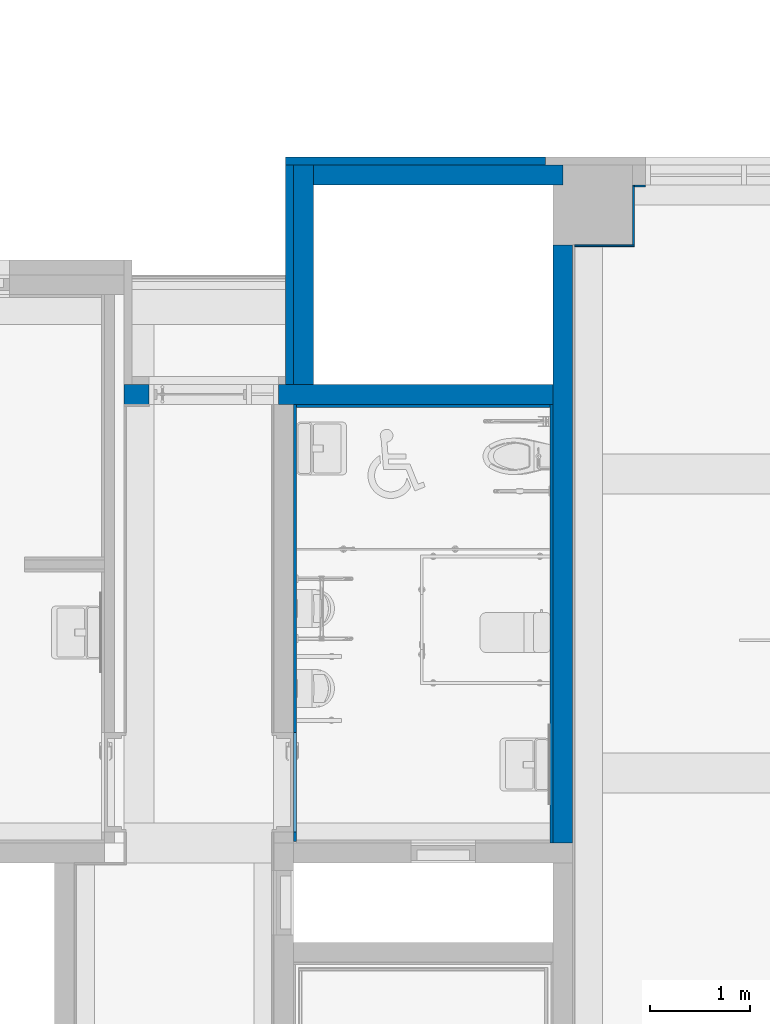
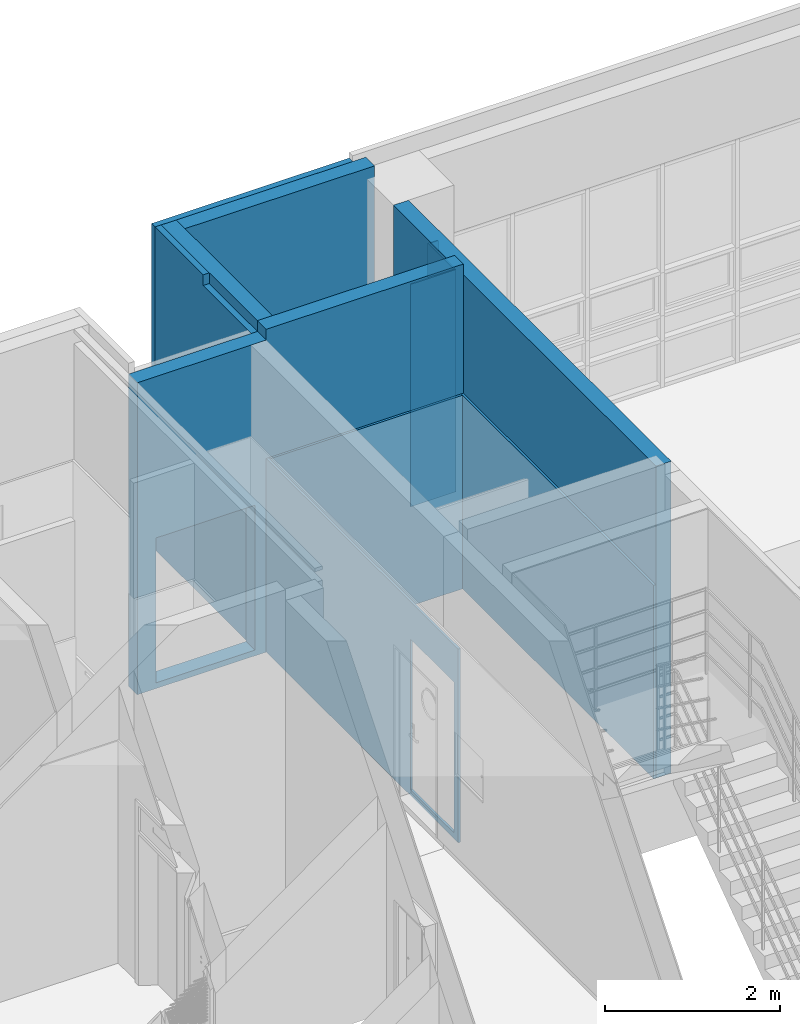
# One storey, part 61 of 74: 12 walls, 2 openings.
"""IFC2X3 building model written with IfcOpenShell, lengths in millimetres."""

from ifc_helpers import new_model, entity, si_unit, converted_unit, derived_unit, direction, frame, frame_2d, origin, place, context, subcontext, project, spatial, polyline, rectangle, extrude, clip, bounded_halfspace, material, layer, layer_set, layer_usage, type_object, element, save


model = new_model("IFC2X3")

# Units and contexts
model_context = context("Model", 3, precision=0.01, world=origin(), true_north=direction((6.123031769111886e-17, 1.0)))
body_context = subcontext(model_context, "Body", "Model", "MODEL_VIEW")
ifc_project = project(units=[si_unit("LENGTHUNIT", "METRE", prefix="MILLI"), si_unit("AREAUNIT", "SQUARE_METRE"), si_unit("VOLUMEUNIT", "CUBIC_METRE"), converted_unit("PLANEANGLEUNIT", "DEGREE", entity("IfcRatioMeasure", 0.017453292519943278), si_unit("PLANEANGLEUNIT", "RADIAN"), dimensions=[0, 0, 0, 0, 0, 0, 0]), si_unit("MASSUNIT", "GRAM", prefix="KILO"), derived_unit("MASSDENSITYUNIT", [(si_unit("MASSUNIT", "GRAM", prefix="KILO"), 1), (si_unit("LENGTHUNIT", "METRE"), -3)]), derived_unit("MOMENTOFINERTIAUNIT", [(si_unit("LENGTHUNIT", "METRE"), 4)]), si_unit("TIMEUNIT", "SECOND"), si_unit("FREQUENCYUNIT", "HERTZ"), si_unit("THERMODYNAMICTEMPERATUREUNIT", "DEGREE_CELSIUS"), derived_unit("THERMALTRANSMITTANCEUNIT", [(si_unit("MASSUNIT", "GRAM", prefix="KILO"), 1), (si_unit("THERMODYNAMICTEMPERATUREUNIT", "KELVIN"), -1), (si_unit("TIMEUNIT", "SECOND"), -3)]), derived_unit("VOLUMETRICFLOWRATEUNIT", [(si_unit("LENGTHUNIT", "METRE"), 3), (si_unit("TIMEUNIT", "SECOND"), -1)]), derived_unit("MASSFLOWRATEUNIT", [(si_unit("MASSUNIT", "GRAM", prefix="KILO"), 1), (si_unit("TIMEUNIT", "SECOND"), -1)]), derived_unit("ROTATIONALFREQUENCYUNIT", [(si_unit("TIMEUNIT", "SECOND"), -1)]), si_unit("ELECTRICCURRENTUNIT", "AMPERE"), si_unit("ELECTRICVOLTAGEUNIT", "VOLT"), si_unit("POWERUNIT", "WATT"), si_unit("FORCEUNIT", "NEWTON", prefix="KILO"), si_unit("ILLUMINANCEUNIT", "LUX"), si_unit("LUMINOUSFLUXUNIT", "LUMEN"), si_unit("LUMINOUSINTENSITYUNIT", "CANDELA"), derived_unit("USERDEFINED", [(si_unit("MASSUNIT", "GRAM", prefix="KILO"), -1), (si_unit("LENGTHUNIT", "METRE"), -2), (si_unit("TIMEUNIT", "SECOND"), 3), (si_unit("LUMINOUSFLUXUNIT", "LUMEN"), 1)]), derived_unit("SOUNDPOWERUNIT", [(si_unit("MASSUNIT", "GRAM", prefix="KILO"), 1), (si_unit("LENGTHUNIT", "METRE"), 2), (si_unit("TIMEUNIT", "SECOND"), -3)]), derived_unit("SOUNDPRESSUREUNIT", [(si_unit("MASSUNIT", "GRAM", prefix="KILO"), 1), (si_unit("LENGTHUNIT", "METRE"), -1), (si_unit("TIMEUNIT", "SECOND"), -2)]), derived_unit("LINEARVELOCITYUNIT", [(si_unit("LENGTHUNIT", "METRE"), 1), (si_unit("TIMEUNIT", "SECOND"), -1)]), si_unit("PRESSUREUNIT", "PASCAL"), derived_unit("USERDEFINED", [(si_unit("LENGTHUNIT", "METRE"), -2), (si_unit("MASSUNIT", "GRAM", prefix="KILO"), 1), (si_unit("TIMEUNIT", "SECOND"), -2)]), derived_unit("LINEARFORCEUNIT", [(si_unit("MASSUNIT", "GRAM", prefix="KILO"), 1), (si_unit("LENGTHUNIT", "METRE"), 1), (si_unit("TIMEUNIT", "SECOND"), -2), (si_unit("LENGTHUNIT", "METRE"), -1)]), derived_unit("PLANARFORCEUNIT", [(si_unit("MASSUNIT", "GRAM", prefix="KILO"), 1), (si_unit("LENGTHUNIT", "METRE"), 1), (si_unit("TIMEUNIT", "SECOND"), -2), (si_unit("LENGTHUNIT", "METRE"), -2)])], contexts=[model_context])

# Site, building, storey
site_placement = place(None, frame((-14167.972527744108, -657.2125860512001, 0.0)))
site = spatial("IfcSite", under=ifc_project, at=site_placement, Name="Default", CompositionType="ELEMENT")
building_placement = place(site_placement, origin())
building = spatial("IfcBuilding", under=site, at=building_placement, Name="Sample Building", CompositionType="ELEMENT")
storey_placement = place(building_placement, frame((0.0, 0.0, 4800.0)))
storey = spatial("IfcBuildingStorey", under=building, at=storey_placement, Name="지상 2층", CompositionType="ELEMENT", Elevation=4800.000000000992)

# Wall, opening
ifc_material_1 = material(Name="KBIMS-콘크리트")
ifc_layer_1 = layer(ifc_material_1, 200.0)
ifc_layer_set_1 = layer_set([ifc_layer_1], Name="기본 벽:WA111-철근콘크리트구조 벽 200mm_CW1")
ifc_layer_usage_1 = layer_usage(ifc_layer_set_1, "AXIS2", "NEGATIVE", 100.0)
wall_type_1 = type_object("IfcWallType", Name="기본 벽:WA111-철근콘크리트구조 벽 200mm_CW1", PredefinedType="STANDARD", material=ifc_layer_set_1)
wall_1_placement = place(storey_placement, frame((36467.963798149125, 26957.21229514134, -1.9340006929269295e-09)))
wall_1 = element("IfcWallStandardCase", 1, at=wall_1_placement, inside=storey, type_object=wall_type_1, material=ifc_layer_usage_1, Name="기본 벽:WA111-철근콘크리트구조 벽 200mm_CW1", ObjectType="기본 벽:WA111-철근콘크리트구조 벽 200mm_CW1", context=body_context, shape_type="Clipping", body=[
    clip(clip(extrude(rectangle(XDim=4300.000000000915, YDim=199.99999999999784, at=frame_2d((2150.0000000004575, 0.0), x_axis=(-1.0, 0.0))), origin(), (0.0, 0.0, 1.0), 4500.000000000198), bounded_halfspace(frame((1699.9912638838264, -100.0, 4350.0), z_axis=(0.0, 0.0, -1.0), x_axis=(1.0, 0.0, 0.0)), True, frame((1699.9912638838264, -100.0, 4350.0), z_axis=(0.0, 0.0, -1.0), x_axis=(1.0, 0.0, 0.0)), polyline([(0.0, 0.0), (-60957.33723164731, 0.0), (-426717.30176581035, 0.0), (-518157.3372317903, 0.0), (-518157.3372317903, -60960.0), (-426717.30176581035, -60960.0), (0.0, -60960.0), (0.0, 0.0)]))), bounded_halfspace(frame((1699.9912638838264, 100.0, 4350.0), z_axis=(1.0, 0.0, 0.0), x_axis=(0.0, 0.0, 1.0)), True, frame((1699.9912638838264, 100.0, 4350.0), z_axis=(1.0, 0.0, 0.0), x_axis=(0.0, 0.0, 1.0)), polyline([(0.0, 0.0), (45720.0, 0.0), (45720.0, 60960.0), (0.0, 60960.0), (0.0, 0.0)]))),
])
opening_1_placement = place(wall_1_placement, origin())
element("IfcOpeningElement", 2, at=opening_1_placement, cuts=wall_1, Name="기본 벽:WA111-철근콘크리트구조 벽 200mm_CW1", ObjectType="Opening", context=body_context, shape_type="SweptSolid", body=[
    extrude(rectangle(XDim=2020.000000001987, YDim=1300.008692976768, at=frame_2d((5.684341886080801e-13, -2.1600499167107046e-12), x_axis=(1.0, 0.0))), frame((900.0043464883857, -252.39999999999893, 1090.0), z_axis=(0.0, 1.0, 0.0), x_axis=(0.0, 0.0, 1.0)), (0.0, 0.0, 1.0), 504.79999999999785),
])

# Walls
ifc_layer_usage_2 = layer_usage(ifc_layer_set_1, "AXIS2", "NEGATIVE", 100.0)
wall_2_placement = place(storey_placement, frame((40867.963798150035, 28457.19489124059, -1.9340006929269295e-09), z_axis=(0.0, 0.0, 1.0), x_axis=(0.0, -1.0, 0.0)))
element("IfcWallStandardCase", 3, at=wall_2_placement, inside=storey, type_object=wall_type_1, material=ifc_layer_usage_2, Name="기본 벽:WA111-철근콘크리트구조 벽 200mm_CW1", ObjectType="기본 벽:WA111-철근콘크리트구조 벽 200mm_CW1", context=body_context, shape_type="Clipping", body=[
    clip(extrude(rectangle(XDim=5999.982592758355, YDim=199.99999999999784, at=frame_2d((2999.9912963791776, 5.5351279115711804e-12), x_axis=(-1.0, 0.0))), origin(), (0.0, 0.0, 1.0), 4350.000000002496), bounded_halfspace(frame((0.0, -100.0, 4350.0), z_axis=(0.0, 0.0, -1.0), x_axis=(1.0, 0.0, 0.0)), True, frame((0.0, -100.0, 4350.0), z_axis=(0.0, 0.0, -1.0), x_axis=(1.0, 0.0, 0.0)), polyline([(0.0, 0.0), (0.0, -60960.0), (1828794.6942727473, -60960.0), (1828794.6942727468, 7.805306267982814e-09), (0.0, 0.0)]))),
])
ifc_layer_usage_3 = layer_usage(ifc_layer_set_1, "AXIS2", "NEGATIVE", 100.0)
wall_3_placement = place(storey_placement, frame((38267.97249112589, 27057.21229514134, -1.9340006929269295e-09), z_axis=(0.0, 0.0, 1.0), x_axis=(0.0, 1.0, 0.0)))
element("IfcWallStandardCase", 4, at=wall_3_placement, inside=storey, type_object=wall_type_1, material=ifc_layer_usage_3, Name="기본 벽:WA111-철근콘크리트구조 벽 200mm_CW1", ObjectType="기본 벽:WA111-철근콘크리트구조 벽 200mm_CW1", context=body_context, shape_type="SweptSolid", body=[
    extrude(rectangle(XDim=2200.000012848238, YDim=199.99999999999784, at=frame_2d((1100.000006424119, 0.0), x_axis=(-1.0, 0.0))), origin(), (0.0, 0.0, 1.0), 4500.000000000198),
])
ifc_layer_usage_4 = layer_usage(ifc_layer_set_1, "AXIS2", "NEGATIVE", 100.0)
wall_4_placement = place(storey_placement, frame((38367.97249112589, 29157.21230798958, -1.9340006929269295e-09)))
element("IfcWallStandardCase", 5, at=wall_4_placement, inside=storey, type_object=wall_type_1, material=ifc_layer_usage_4, Name="기본 벽:WA111-철근콘크리트구조 벽 200mm_CW1", ObjectType="기본 벽:WA111-철근콘크리트구조 벽 200mm_CW1", context=body_context, shape_type="SweptSolid", body=[
    extrude(rectangle(XDim=2499.991307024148, YDim=199.99999999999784, at=frame_2d((1249.995653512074, 0.0), x_axis=(-1.0, 0.0))), origin(), (0.0, 0.0, 1.0), 4500.000000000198),
])
ifc_material_2 = material(Name="KBIMS-화강석 잔다듬")
ifc_layer_2 = layer(ifc_material_2, 80.0)
ifc_layer_set_2 = layer_set([ifc_layer_2], Name="기본 벽:WA313-화강석잔다듬 벽 (30, 건식50) 80mm")
ifc_layer_usage_5 = layer_usage(ifc_layer_set_2, "AXIS2", "POSITIVE", -40.0)
wall_type_2 = type_object("IfcWallType", Name="기본 벽:WA313-화강석잔다듬 벽 (30, 건식50) 80mm", PredefinedType="STANDARD", material=ifc_layer_set_2)
wall_5_placement = place(storey_placement, frame((40692.96379815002, 29297.212295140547, -1.9340006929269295e-09), z_axis=(0.0, 0.0, 1.0), x_axis=(-1.0, 0.0, 0.0)))
element("IfcWallStandardCase", 6, at=wall_5_placement, inside=storey, type_object=wall_type_2, material=ifc_layer_usage_5, Name="기본 벽:WA313-화강석잔다듬 벽 (30, 건식50) 80mm", ObjectType="기본 벽:WA313-화강석잔다듬 벽 (30, 건식50) 80mm", context=body_context, shape_type="SweptSolid", body=[
    extrude(rectangle(XDim=2604.991307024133, YDim=79.99999999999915, at=frame_2d((1302.4956535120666, -2.842170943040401e-14), x_axis=(-1.0, 0.0))), origin(), (0.0, 0.0, 1.0), 4500.000000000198),
])
ifc_layer_usage_6 = layer_usage(ifc_layer_set_2, "AXIS2", "POSITIVE", -40.0)
wall_6_placement = place(storey_placement, frame((38127.97249112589, 29257.212295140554, -1.9340006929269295e-09), z_axis=(0.0, 0.0, 1.0), x_axis=(0.0, -1.0, 0.0)))
element("IfcWallStandardCase", 7, at=wall_6_placement, inside=storey, type_object=wall_type_2, material=ifc_layer_usage_6, Name="기본 벽:WA313-화강석잔다듬 벽 (30, 건식50) 80mm", ObjectType="기본 벽:WA313-화강석잔다듬 벽 (30, 건식50) 80mm", context=body_context, shape_type="Clipping", body=[
    clip(clip(extrude(rectangle(XDim=2199.9999999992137, YDim=79.99999999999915, at=frame_2d((1099.9999999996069, 2.2737367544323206e-13), x_axis=(-1.0, 0.0))), origin(), (0.0, 0.0, 1.0), 4500.000000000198), bounded_halfspace(frame((1100.0001779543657, 40.0, 4350.0), z_axis=(0.0, 0.0, -1.0), x_axis=(0.0, 1.0, 0.0)), True, frame((1100.0001779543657, 40.0, 4350.0), z_axis=(0.0, 0.0, -1.0), x_axis=(0.0, 1.0, 0.0)), polyline([(0.0, 0.0), (-2.6400300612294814e-09, 335279.9457592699), (-24384.0, 335279.9457592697), (-24384.0, 310895.9457592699), (-24384.0, 0.0), (0.0, 0.0)]))), bounded_halfspace(frame((1100.0001779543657, -40.0, 4350.0), z_axis=(-1.0, 0.0, 0.0), x_axis=(0.0, 0.0, 1.0)), True, frame((1100.0001779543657, -40.0, 4350.0), z_axis=(-1.0, 0.0, 0.0), x_axis=(0.0, 0.0, 1.0)), polyline([(0.0, 0.0), (45720.0, 0.0), (45720.0, 24384.0), (0.0, 24384.0), (0.0, 0.0)]))),
])
ifc_material_3 = material(Name="WA611-수성페인트 (내부) 벽 (3회)")
ifc_layer_3 = layer(ifc_material_3, 1.0)
ifc_material_4 = material(Name="WA551-시멘트모르타르 (내부) 벽 18mm")
ifc_layer_4 = layer(ifc_material_4, 16.0)
ifc_material_5 = material(Name="WA555-콘크리트면정리 벽 (내부)")
ifc_layer_5 = layer(ifc_material_5, 1.0)
ifc_layer_set_3 = layer_set([ifc_layer_3, ifc_layer_4, ifc_layer_5], Name="기본 벽:A1-32-06A-콘크리트면정리, 시멘트모르타르(미장용), 수성페인트(내부) (18mm)")
ifc_layer_usage_7 = layer_usage(ifc_layer_set_3, "AXIS2", "POSITIVE", -9.000000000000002)
wall_type_3 = type_object("IfcWallType", Name="기본 벽:A1-32-06A-콘크리트면정리, 시멘트모르타르(미장용), 수성페인트(내부) (18mm)", PredefinedType="STANDARD", material=ifc_layer_set_3)
wall_7_placement = place(storey_placement, frame((40985.96379814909, 28448.21230798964, 80.0)))
element("IfcWallStandardCase", 8, at=wall_7_placement, inside=storey, type_object=wall_type_3, material=ifc_layer_usage_7, Name="기본 벽:A1-32-06A-콘크리트면정리, 시멘트모르타르(미장용), 수성페인트(내부) (18mm)", ObjectType="기본 벽:A1-32-06A-콘크리트면정리, 시멘트모르타르(미장용), 수성페인트(내부) (18mm)", context=body_context, shape_type="SweptSolid", body=[
    extrude(rectangle(XDim=600.0086929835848, YDim=18.00000000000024, at=frame_2d((300.0043464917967, -2.1662671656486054e-12), x_axis=(-1.0, 0.0))), origin(), (0.0, 0.0, 1.0), 3100.0000000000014),
])
ifc_layer_usage_8 = layer_usage(ifc_layer_set_3, "AXIS2", "POSITIVE", -9.000000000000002)
wall_8_placement = place(storey_placement, frame((41576.972491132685, 28457.212307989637, 80.0), z_axis=(0.0, 0.0, 1.0), x_axis=(0.0, 1.0, 0.0)))
element("IfcWallStandardCase", 9, at=wall_8_placement, inside=storey, type_object=wall_type_3, material=ifc_layer_usage_8, Name="기본 벽:A1-32-06A-콘크리트면정리, 시멘트모르타르(미장용), 수성페인트(내부) (18mm)", ObjectType="기본 벽:A1-32-06A-콘크리트면정리, 시멘트모르타르(미장용), 수성페인트(내부) (18mm)", context=body_context, shape_type="SweptSolid", body=[
    extrude(rectangle(XDim=599.9999871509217, YDim=17.999999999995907, at=frame_2d((299.99999357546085, 0.0), x_axis=(-1.0, 0.0))), origin(), (0.0, 0.0, 1.0), 3100.0000000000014),
])
ifc_layer_usage_9 = layer_usage(ifc_layer_set_3, "AXIS2", "NEGATIVE", 9.000000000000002)
wall_9_placement = place(storey_placement, frame((41697.546658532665, 29048.212295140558, 80.0), z_axis=(0.0, 0.0, 1.0), x_axis=(-1.0, 0.0, 0.0)))
element("IfcWallStandardCase", 10, at=wall_9_placement, inside=storey, type_object=wall_type_3, material=ifc_layer_usage_9, Name="기본 벽:A1-32-06A-콘크리트면정리, 시멘트모르타르(미장용), 수성페인트(내부) (18mm)", ObjectType="기본 벽:A1-32-06A-콘크리트면정리, 시멘트모르타르(미장용), 수성페인트(내부) (18mm)", context=body_context, shape_type="SweptSolid", body=[
    extrude(rectangle(XDim=111.57416739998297, YDim=18.00000000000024, at=frame_2d((4.330757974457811e-12, -2.1662671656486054e-12), x_axis=(1.0, 0.0))), frame((55.78708369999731, 0.0, 0.0), z_axis=(0.0, 0.0, 1.0), x_axis=(-1.0, 0.0, 0.0)), (0.0, 0.0, 1.0), 3100.0),
])
ifc_material_6 = material(Name="WA352-도기질타일 벽 200x200")
ifc_layer_6 = layer(ifc_material_6, 8.0)
ifc_material_7 = material(Name="WA551-시멘트모르타르 (내부) 벽 22mm")
ifc_layer_7 = layer(ifc_material_7, 22.0)
ifc_layer_set_4 = layer_set([ifc_layer_6, ifc_layer_7], Name="기본 벽:A1-33-01B-시멘트 모르타르, 도기질타일 (30mm)")
ifc_layer_usage_10 = layer_usage(ifc_layer_set_4, "AXIS2", "POSITIVE", -15.0)
wall_type_4 = type_object("IfcWallType", Name="기본 벽:A1-33-01B-시멘트 모르타르, 도기질타일 (30mm)", PredefinedType="STANDARD", material=ifc_layer_set_4)
wall_10_placement = place(storey_placement, frame((40752.96379815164, 22457.277511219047, 0.0), z_axis=(0.0, 0.0, 1.0), x_axis=(0.0, 1.0, 0.0)))
element("IfcWallStandardCase", 11, at=wall_10_placement, inside=storey, type_object=wall_type_4, material=ifc_layer_usage_10, Name="기본 벽:A1-33-01B-시멘트 모르타르, 도기질타일 (30mm)", ObjectType="기본 벽:A1-33-01B-시멘트 모르타르, 도기질타일 (30mm)", context=body_context, shape_type="SweptSolid", body=[
    extrude(rectangle(XDim=4399.934783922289, YDim=30.000000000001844, at=frame_2d((2199.9673919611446, -3.2933655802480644e-12), x_axis=(-1.0, 0.0))), origin(), (0.0, 0.0, 1.0), 2700.000000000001),
])
ifc_layer_usage_11 = layer_usage(ifc_layer_set_4, "AXIS2", "NEGATIVE", 15.0)
wall_11_placement = place(storey_placement, frame((38197.96379814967, 26842.212295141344, 0.0)))
element("IfcWallStandardCase", 12, at=wall_11_placement, inside=storey, type_object=wall_type_4, material=ifc_layer_usage_11, Name="기본 벽:A1-33-01B-시멘트 모르타르, 도기질타일 (30mm)", ObjectType="기본 벽:A1-33-01B-시멘트 모르타르, 도기질타일 (30mm)", context=body_context, shape_type="SweptSolid", body=[
    extrude(rectangle(XDim=2540.0000000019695, YDim=30.000000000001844, at=frame_2d((1270.0000000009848, 0.0), x_axis=(-1.0, 0.0))), origin(), (0.0, 0.0, 1.0), 2700.000000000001),
])

# Wall, opening
ifc_layer_usage_12 = layer_usage(ifc_layer_set_4, "AXIS2", "NEGATIVE", 15.0)
wall_12_placement = place(storey_placement, frame((38182.96379814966, 22472.27751121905, 0.0), z_axis=(0.0, 0.0, 1.0), x_axis=(0.0, 1.0, 0.0)))
wall_12 = element("IfcWallStandardCase", 13, at=wall_12_placement, inside=storey, type_object=wall_type_4, material=ifc_layer_usage_12, Name="기본 벽:A1-33-01B-시멘트 모르타르, 도기질타일 (30mm)", ObjectType="기본 벽:A1-33-01B-시멘트 모르타르, 도기질타일 (30mm)", context=body_context, shape_type="SweptSolid", body=[
    extrude(rectangle(XDim=4384.934783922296, YDim=30.000000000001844, at=frame_2d((2192.467391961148, -1.048938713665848e-12), x_axis=(-1.0, 0.0))), origin(), (0.0, 0.0, 1.0), 2700.000000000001),
])
opening_2_placement = place(wall_12_placement, origin())
element("IfcOpeningElement", 14, at=opening_2_placement, cuts=wall_12, Name="기본 벽:A1-33-01B-시멘트 모르타르, 도기질타일 (30mm)", ObjectType="Opening", context=body_context, shape_type="SweptSolid", body=[
    extrude(rectangle(XDim=2099.9999999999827, YDim=999.999999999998, at=frame_2d((-5.684341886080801e-13, 0.0), x_axis=(1.0, 0.0))), frame((591.3953069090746, -1309.0, 1130.0), z_axis=(0.0, 1.0, 0.0), x_axis=(0.0, 0.0, 1.0)), (0.0, 0.0, 1.0), 3048.0),
])

save(model, "model.ifc")
